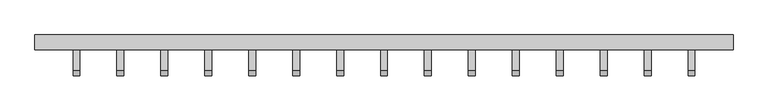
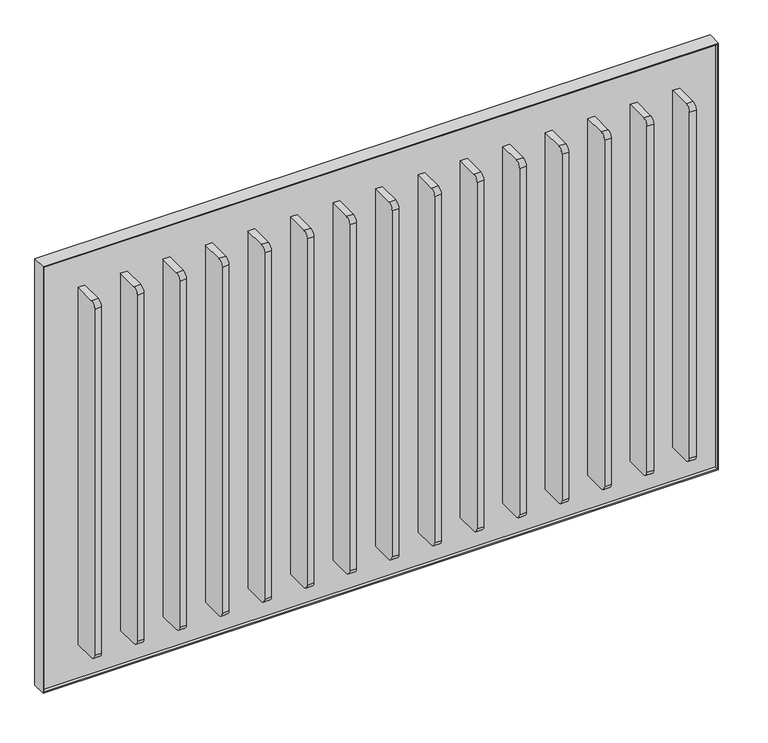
"""IFC4 building model written with IfcOpenShell, lengths in millimetres: proxy geometry, Frame_Cascade 14.3dm."""

import ifcopenshell
import ifcopenshell.guid

model = None  # the IFC model being written
_history = None  # IfcOwnerHistory: only IFC2X3 demands one
_inside = {}  # id of a spatial element -> (the spatial element, [elements in it])
_under = {}  # id of a project, library or spatial element -> (it, [spatial elements below it])
_declared = {}  # id of a project -> (the project, [libraries it declares])
_typed = {}  # id of a type object -> (the type object, [elements of that type])
_made_of = {}  # id of a material, layer set ... -> (it, [elements and type objects made of it])


def new_model(schema):
    """Start an empty IFC model of exactly this schema.

    Asked for "IFC4X3", IfcOpenShell would pick the latest addendum, in which some entities
    have other attributes; the version numbers below select the first issue.
    IFC2X3 requires an IfcOwnerHistory on every rooted entity: one is made here for all.
    """
    global model, _history
    if schema == "IFC4X3":
        model = ifcopenshell.file(schema_version=(4, 3, 0, 0))
    else:
        model = ifcopenshell.file(schema=schema)
    _inside.clear()
    _under.clear()
    _declared.clear()
    _typed.clear()
    _made_of.clear()
    _history = None
    if model.schema == "IFC2X3":
        org = make("IfcOrganization", Name="unknown")
        user = make(
            "IfcPersonAndOrganization",
            ThePerson=make("IfcPerson", FamilyName="unknown"),
            TheOrganization=org,
        )
        app = make(
            "IfcApplication",
            ApplicationDeveloper=org,
            Version="unknown",
            ApplicationFullName="unknown",
            ApplicationIdentifier="unknown",
        )
        _history = make(
            "IfcOwnerHistory",
            OwningUser=user,
            OwningApplication=app,
            ChangeAction="ADDED",
            CreationDate=0,
        )
    return model


def make(cls, **values):
    """One entity of the class cls with the attributes given. An attribute that is None is left unset."""
    return model.create_entity(
        cls, **{name: value for name, value in values.items() if value is not None}
    )


def rooted(cls, **values):
    """An entity with a GlobalId (a new one), such as an element, a storey or a relation."""
    return make(cls, GlobalId=ifcopenshell.guid.new(), OwnerHistory=_history, **values)


def si_unit(unit_type, name, prefix=None):
    """IfcSIUnit, for example si_unit("LENGTHUNIT", "METRE", prefix="MILLI")."""
    return make("IfcSIUnit", UnitType=unit_type, Prefix=prefix, Name=name)


def assignment(units):
    """IfcUnitAssignment: the units of a project."""
    return None if units is None else make("IfcUnitAssignment", Units=units)


def point(xyz):
    """IfcCartesianPoint."""
    return None if xyz is None else make("IfcCartesianPoint", Coordinates=xyz)


def direction(xyz):
    """IfcDirection."""
    return None if xyz is None else make("IfcDirection", DirectionRatios=xyz)


def frame(location, z_axis=None, x_axis=None):
    """IfcAxis2Placement3D, a coordinate frame: its origin and axes. An axis left out is left unset."""
    return make(
        "IfcAxis2Placement3D",
        Location=point(location),
        Axis=direction(z_axis),
        RefDirection=direction(x_axis),
    )


def frame_2d(location, x_axis=None):
    """IfcAxis2Placement2D, a coordinate frame in the plane: its origin and x axis."""
    return make(
        "IfcAxis2Placement2D", Location=point(location), RefDirection=direction(x_axis)
    )


def origin():
    """The frame at (0, 0, 0) with its axes left unset."""
    return frame((0.0, 0.0, 0.0))


def place(relative_to, where):
    """IfcLocalPlacement: puts the frame where relative to a parent placement (None: the world)."""
    return make(
        "IfcLocalPlacement", PlacementRelTo=relative_to, RelativePlacement=where
    )


def context(
    kind, dimensions, precision=None, world=None, true_north=None, identifier=None
):
    """IfcGeometricRepresentationContext, for example the 3D "Model" context."""
    return make(
        "IfcGeometricRepresentationContext",
        ContextIdentifier=identifier,
        ContextType=kind,
        CoordinateSpaceDimension=dimensions,
        Precision=precision,
        WorldCoordinateSystem=world,
        TrueNorth=true_north,
    )


def project(units=None, contexts=None):
    """IfcProject with its units and contexts."""
    return rooted(
        "IfcProject",
        Name="project",
        RepresentationContexts=contexts,
        UnitsInContext=assignment(units),
    )


def spatial(cls, under=None, at=None, **own):
    """A site, building, storey or space (cls), placed at a placement, below another one or the project."""
    s = rooted(cls, ObjectPlacement=at, **own)
    if under is not None:
        _under.setdefault(under.id(), (under, []))[1].append(s)
    return s


def polyline(points):
    """IfcPolyline through the points."""
    return make("IfcPolyline", Points=[point(p) for p in points])


def circle_curve(where, radius):
    """IfcCircle in the frame where."""
    return make("IfcCircle", Position=where, Radius=radius)


def trimmed(basis, trim1, trim2, sense, master):
    """IfcTrimmedCurve: the piece of a basis curve between two trims."""
    return make(
        "IfcTrimmedCurve",
        BasisCurve=basis,
        Trim1=trim1,
        Trim2=trim2,
        SenseAgreement=sense,
        MasterRepresentation=master,
    )


def segment(curve, same_sense, transition):
    """IfcCompositeCurveSegment."""
    return make(
        "IfcCompositeCurveSegment",
        Transition=transition,
        SameSense=same_sense,
        ParentCurve=curve,
    )


def composite_curve(segments, self_intersect=None):
    """IfcCompositeCurve: segments joined end to end."""
    return make("IfcCompositeCurve", Segments=segments, SelfIntersect=self_intersect)


def outline(outer, holes=None, kind="AREA"):
    """IfcArbitraryClosedProfileDef: a profile drawn as a closed curve; with holes, ...WithVoids."""
    if holes is None:
        return make("IfcArbitraryClosedProfileDef", ProfileType=kind, OuterCurve=outer)
    return make(
        "IfcArbitraryProfileDefWithVoids",
        ProfileType=kind,
        OuterCurve=outer,
        InnerCurves=holes,
    )


def extrude(swept, where, along, depth):
    """IfcExtrudedAreaSolid: the profile swept, set in the frame where, extruded along a direction by depth."""
    return make(
        "IfcExtrudedAreaSolid",
        SweptArea=swept,
        Position=where,
        ExtrudedDirection=direction(along),
        Depth=depth,
    )


def shape(context_of_items, identifier, shape_type, items):
    """IfcShapeRepresentation: the items that make up one representation, for example the "Body"."""
    return make(
        "IfcShapeRepresentation",
        ContextOfItems=context_of_items,
        RepresentationIdentifier=identifier,
        RepresentationType=shape_type,
        Items=items,
    )


def source(mapping_origin, context_of_items, identifier, shape_type, items):
    """IfcRepresentationMap: a shape defined once, which mapped items show again and again."""
    return make(
        "IfcRepresentationMap",
        MappingOrigin=mapping_origin,
        MappedRepresentation=shape(context_of_items, identifier, shape_type, items),
    )


def transform(
    local_origin,
    x_axis=None,
    y_axis=None,
    z_axis=None,
    scale=None,
    scale2=None,
    scale3=None,
    uniform=True,
):
    """IfcCartesianTransformationOperator3D, or its non-uniform kind. x_axis, y_axis, z_axis: its Axis1, 2, 3."""
    if uniform:
        return make(
            "IfcCartesianTransformationOperator3D",
            Axis1=direction(x_axis),
            Axis2=direction(y_axis),
            LocalOrigin=point(local_origin),
            Scale=scale,
            Axis3=direction(z_axis),
        )
    return make(
        "IfcCartesianTransformationOperator3DnonUniform",
        Axis1=direction(x_axis),
        Axis2=direction(y_axis),
        LocalOrigin=point(local_origin),
        Scale=scale,
        Axis3=direction(z_axis),
        Scale2=scale2,
        Scale3=scale3,
    )


def mapped(mapping_source, mapping_target):
    """IfcMappedItem: shows the shape of a source again, moved by a transform."""
    return make(
        "IfcMappedItem", MappingSource=mapping_source, MappingTarget=mapping_target
    )


def made_of(thing, what):
    """Note that an element or type object is made of a material, layer set ...; save() writes the relation."""
    if what is not None:
        _made_of.setdefault(what.id(), (what, []))[1].append(thing)
    return thing


def element(
    cls,
    number,
    at=None,
    inside=None,
    cuts=None,
    type_object=None,
    material=None,
    context=None,
    identifier="Body",
    shape_type=None,
    held_by="IfcProductDefinitionShape",
    body=None,
    shapes=None,
    **own,
):
    """One element of the class cls, such as IfcWall. Its Tag is "e" and its number.

    at: its placement. inside: the storey or other place that contains it. cuts: it is an
    opening in that element (IfcRelVoidsElement). A single representation is given by context,
    identifier, shape_type and body (its items); several are given by shapes. held_by: the class
    of the entity that holds the representations. save() writes the other relations.
    """
    e = rooted(cls, Tag="e%d" % number, ObjectPlacement=at, **own)
    if body is not None:
        shapes = [shape(context, identifier, shape_type, body)]
    if shapes is not None:
        e.Representation = make(held_by, Representations=shapes)
    if inside is not None:
        _inside.setdefault(inside.id(), (inside, []))[1].append(e)
    if cuts is not None:
        rooted(
            "IfcRelVoidsElement", RelatingBuildingElement=cuts, RelatedOpeningElement=e
        )
    if type_object is not None:
        _typed.setdefault(type_object.id(), (type_object, []))[1].append(e)
    return made_of(e, material)


def aggregate(whole, parts):
    """IfcRelAggregates: a whole, such as a stair, and the parts it consists of."""
    return rooted("IfcRelAggregates", RelatingObject=whole, RelatedObjects=parts)


def save(model, path):
    """Write the relations noted so far, then the file.

    IfcRelAggregates (storeys below a building ...), IfcRelContainedInSpatialStructure (elements
    in a storey), IfcRelDefinesByType, IfcRelAssociatesMaterial and IfcRelDeclares: one each for
    every whole, place, type object, material and project.
    """
    for whole, parts in _under.values():
        aggregate(whole, parts)
    for where, things in _inside.values():
        rooted(
            "IfcRelContainedInSpatialStructure",
            RelatedElements=things,
            RelatingStructure=where,
        )
    for kind, things in _typed.values():
        rooted("IfcRelDefinesByType", RelatedObjects=things, RelatingType=kind)
    for what, things in _made_of.values():
        rooted("IfcRelAssociatesMaterial", RelatedObjects=things, RelatingMaterial=what)
    for by, libraries in _declared.values():
        rooted("IfcRelDeclares", RelatingContext=by, RelatedDefinitions=libraries)
    model.write(path)


def generic_models_aef52470(model_context):
    return source(origin(), model_context, "Body", "SweptSolid", [
        extrude(outline(composite_curve([segment(trimmed(circle_curve(frame_2d((72.7568681, 668.1076084)), 10.0), [point((72.7568681, 658.1076084))], [point((62.7568681, 668.1076084))], False, "CARTESIAN"), True, "CONTINUOUS"), segment(polyline([(62.7568681, 668.1076084), (62.7568681, 1320.6076084)]), True, "CONTINUOUS"), segment(trimmed(circle_curve(frame_2d((72.7568681, 1320.6076084)), 10.0), [point((62.7568681, 1320.6076084))], [point((72.7568681, 1330.6076084))], False, "CARTESIAN"), True, "CONTINUOUS"), segment(polyline([(72.7568681, 1330.6076084), (114.2568681, 1330.6076084), (114.2568681, 658.1076084), (72.7568681, 658.1076084)]), True, "CONTINUOUS")], self_intersect=False)), frame((4297.3323426, 0.0, 0.0), z_axis=(1.0, 0.0, 0.0), x_axis=(0.0, 1.0, 0.0)), (0.0, 0.0, 1.0), 12.0),
        extrude(outline(composite_curve([segment(trimmed(circle_curve(frame_2d((72.7568681, 668.1076084)), 10.0), [point((72.7568681, 658.1076084))], [point((62.7568681, 668.1076084))], False, "CARTESIAN"), True, "CONTINUOUS"), segment(polyline([(62.7568681, 668.1076084), (62.7568681, 1320.6076084)]), True, "CONTINUOUS"), segment(trimmed(circle_curve(frame_2d((72.7568681, 1320.6076084)), 10.0), [point((62.7568681, 1320.6076084))], [point((72.7568681, 1330.6076084))], False, "CARTESIAN"), True, "CONTINUOUS"), segment(polyline([(72.7568681, 1330.6076084), (114.2568681, 1330.6076084), (114.2568681, 658.1076084), (72.7568681, 658.1076084)]), True, "CONTINUOUS")], self_intersect=False)), frame((4145.8323426, 0.0, 0.0), z_axis=(1.0, 0.0, 0.0), x_axis=(0.0, 1.0, 0.0)), (0.0, 0.0, 1.0), 12.0),
        extrude(outline(composite_curve([segment(trimmed(circle_curve(frame_2d((72.7568681, 668.1076084)), 10.0), [point((72.7568681, 658.1076084))], [point((62.7568681, 668.1076084))], False, "CARTESIAN"), True, "CONTINUOUS"), segment(polyline([(62.7568681, 668.1076084), (62.7568681, 1320.6076084)]), True, "CONTINUOUS"), segment(trimmed(circle_curve(frame_2d((72.7568681, 1320.6076084)), 10.0), [point((62.7568681, 1320.6076084))], [point((72.7568681, 1330.6076084))], False, "CARTESIAN"), True, "CONTINUOUS"), segment(polyline([(72.7568681, 1330.6076084), (114.2568681, 1330.6076084), (114.2568681, 658.1076084), (72.7568681, 658.1076084)]), True, "CONTINUOUS")], self_intersect=False)), frame((3918.5823426, 0.0, 0.0), z_axis=(1.0, 0.0, 0.0), x_axis=(0.0, 1.0, 0.0)), (0.0, 0.0, 1.0), 12.0),
        extrude(outline(composite_curve([segment(trimmed(circle_curve(frame_2d((72.7568681, 668.1076084)), 10.0), [point((72.7568681, 658.1076084))], [point((62.7568681, 668.1076084))], False, "CARTESIAN"), True, "CONTINUOUS"), segment(polyline([(62.7568681, 668.1076084), (62.7568681, 1320.6076084)]), True, "CONTINUOUS"), segment(trimmed(circle_curve(frame_2d((72.7568681, 1320.6076084)), 10.0), [point((62.7568681, 1320.6076084))], [point((72.7568681, 1330.6076084))], False, "CARTESIAN"), True, "CONTINUOUS"), segment(polyline([(72.7568681, 1330.6076084), (114.2568681, 1330.6076084), (114.2568681, 658.1076084), (72.7568681, 658.1076084)]), True, "CONTINUOUS")], self_intersect=False)), frame((4070.0823426, 0.0, 0.0), z_axis=(1.0, 0.0, 0.0), x_axis=(0.0, 1.0, 0.0)), (0.0, 0.0, 1.0), 12.0),
        extrude(outline(composite_curve([segment(trimmed(circle_curve(frame_2d((72.7568681, 668.1076084)), 10.0), [point((72.7568681, 658.1076084))], [point((62.7568681, 668.1076084))], False, "CARTESIAN"), True, "CONTINUOUS"), segment(polyline([(62.7568681, 668.1076084), (62.7568681, 1320.6076084)]), True, "CONTINUOUS"), segment(trimmed(circle_curve(frame_2d((72.7568681, 1320.6076084)), 10.0), [point((62.7568681, 1320.6076084))], [point((72.7568681, 1330.6076084))], False, "CARTESIAN"), True, "CONTINUOUS"), segment(polyline([(72.7568681, 1330.6076084), (114.2568681, 1330.6076084), (114.2568681, 658.1076084), (72.7568681, 658.1076084)]), True, "CONTINUOUS")], self_intersect=False)), frame((3842.8323426, 0.0, 0.0), z_axis=(1.0, 0.0, 0.0), x_axis=(0.0, 1.0, 0.0)), (0.0, 0.0, 1.0), 12.0),
        extrude(outline(composite_curve([segment(trimmed(circle_curve(frame_2d((72.7568681, 668.1076084)), 10.0), [point((72.7568681, 658.1076084))], [point((62.7568681, 668.1076084))], False, "CARTESIAN"), True, "CONTINUOUS"), segment(polyline([(62.7568681, 668.1076084), (62.7568681, 1320.6076084)]), True, "CONTINUOUS"), segment(trimmed(circle_curve(frame_2d((72.7568681, 1320.6076084)), 10.0), [point((62.7568681, 1320.6076084))], [point((72.7568681, 1330.6076084))], False, "CARTESIAN"), True, "CONTINUOUS"), segment(polyline([(72.7568681, 1330.6076084), (114.2568681, 1330.6076084), (114.2568681, 658.1076084), (72.7568681, 658.1076084)]), True, "CONTINUOUS")], self_intersect=False)), frame((3994.3323426, 0.0, 0.0), z_axis=(1.0, 0.0, 0.0), x_axis=(0.0, 1.0, 0.0)), (0.0, 0.0, 1.0), 12.0),
        extrude(outline(composite_curve([segment(trimmed(circle_curve(frame_2d((72.7568681, 668.1076084)), 10.0), [point((72.7568681, 658.1076084))], [point((62.7568681, 668.1076084))], False, "CARTESIAN"), True, "CONTINUOUS"), segment(polyline([(62.7568681, 668.1076084), (62.7568681, 1320.6076084)]), True, "CONTINUOUS"), segment(trimmed(circle_curve(frame_2d((72.7568681, 1320.6076084)), 10.0), [point((62.7568681, 1320.6076084))], [point((72.7568681, 1330.6076084))], False, "CARTESIAN"), True, "CONTINUOUS"), segment(polyline([(72.7568681, 1330.6076084), (114.2568681, 1330.6076084), (114.2568681, 658.1076084), (72.7568681, 658.1076084)]), True, "CONTINUOUS")], self_intersect=False)), frame((4221.5823426, 0.0, 0.0), z_axis=(1.0, 0.0, 0.0), x_axis=(0.0, 1.0, 0.0)), (0.0, 0.0, 1.0), 12.0),
        extrude(outline(composite_curve([segment(trimmed(circle_curve(frame_2d((72.7568681, 668.1076084)), 10.0), [point((72.7568681, 658.1076084))], [point((62.7568681, 668.1076084))], False, "CARTESIAN"), True, "CONTINUOUS"), segment(polyline([(62.7568681, 668.1076084), (62.7568681, 1320.6076084)]), True, "CONTINUOUS"), segment(trimmed(circle_curve(frame_2d((72.7568681, 1320.6076084)), 10.0), [point((62.7568681, 1320.6076084))], [point((72.7568681, 1330.6076084))], False, "CARTESIAN"), True, "CONTINUOUS"), segment(polyline([(72.7568681, 1330.6076084), (114.2568681, 1330.6076084), (114.2568681, 658.1076084), (72.7568681, 658.1076084)]), True, "CONTINUOUS")], self_intersect=False)), frame((3615.5823426, 0.0, 0.0), z_axis=(1.0, 0.0, 0.0), x_axis=(0.0, 1.0, 0.0)), (0.0, 0.0, 1.0), 12.0),
        extrude(outline(composite_curve([segment(trimmed(circle_curve(frame_2d((72.7568681, 668.1076084)), 10.0), [point((72.7568681, 658.1076084))], [point((62.7568681, 668.1076084))], False, "CARTESIAN"), True, "CONTINUOUS"), segment(polyline([(62.7568681, 668.1076084), (62.7568681, 1320.6076084)]), True, "CONTINUOUS"), segment(trimmed(circle_curve(frame_2d((72.7568681, 1320.6076084)), 10.0), [point((62.7568681, 1320.6076084))], [point((72.7568681, 1330.6076084))], False, "CARTESIAN"), True, "CONTINUOUS"), segment(polyline([(72.7568681, 1330.6076084), (114.2568681, 1330.6076084), (114.2568681, 658.1076084), (72.7568681, 658.1076084)]), True, "CONTINUOUS")], self_intersect=False)), frame((3767.0823426, 0.0, 0.0), z_axis=(1.0, 0.0, 0.0), x_axis=(0.0, 1.0, 0.0)), (0.0, 0.0, 1.0), 12.0),
        extrude(outline(composite_curve([segment(trimmed(circle_curve(frame_2d((72.7568681, 668.1076084)), 10.0), [point((72.7568681, 658.1076084))], [point((62.7568681, 668.1076084))], False, "CARTESIAN"), True, "CONTINUOUS"), segment(polyline([(62.7568681, 668.1076084), (62.7568681, 1320.6076084)]), True, "CONTINUOUS"), segment(trimmed(circle_curve(frame_2d((72.7568681, 1320.6076084)), 10.0), [point((62.7568681, 1320.6076084))], [point((72.7568681, 1330.6076084))], False, "CARTESIAN"), True, "CONTINUOUS"), segment(polyline([(72.7568681, 1330.6076084), (114.2568681, 1330.6076084), (114.2568681, 658.1076084), (72.7568681, 658.1076084)]), True, "CONTINUOUS")], self_intersect=False)), frame((3691.3323426, 0.0, 0.0), z_axis=(1.0, 0.0, 0.0), x_axis=(0.0, 1.0, 0.0)), (0.0, 0.0, 1.0), 12.0),
        extrude(outline(composite_curve([segment(trimmed(circle_curve(frame_2d((72.7568681, 668.1076084)), 10.0), [point((72.7568681, 658.1076084))], [point((62.7568681, 668.1076084))], False, "CARTESIAN"), True, "CONTINUOUS"), segment(polyline([(62.7568681, 668.1076084), (62.7568681, 1320.6076084)]), True, "CONTINUOUS"), segment(trimmed(circle_curve(frame_2d((72.7568681, 1320.6076084)), 10.0), [point((62.7568681, 1320.6076084))], [point((72.7568681, 1330.6076084))], False, "CARTESIAN"), True, "CONTINUOUS"), segment(polyline([(72.7568681, 1330.6076084), (114.2568681, 1330.6076084), (114.2568681, 658.1076084), (72.7568681, 658.1076084)]), True, "CONTINUOUS")], self_intersect=False)), frame((3236.8323426, 0.0, 0.0), z_axis=(1.0, 0.0, 0.0), x_axis=(0.0, 1.0, 0.0)), (0.0, 0.0, 1.0), 12.0),
        extrude(outline(composite_curve([segment(trimmed(circle_curve(frame_2d((72.7568681, 668.1076084)), 10.0), [point((72.7568681, 658.1076084))], [point((62.7568681, 668.1076084))], False, "CARTESIAN"), True, "CONTINUOUS"), segment(polyline([(62.7568681, 668.1076084), (62.7568681, 1320.6076084)]), True, "CONTINUOUS"), segment(trimmed(circle_curve(frame_2d((72.7568681, 1320.6076084)), 10.0), [point((62.7568681, 1320.6076084))], [point((72.7568681, 1330.6076084))], False, "CARTESIAN"), True, "CONTINUOUS"), segment(polyline([(72.7568681, 1330.6076084), (114.2568681, 1330.6076084), (114.2568681, 658.1076084), (72.7568681, 658.1076084)]), True, "CONTINUOUS")], self_intersect=False)), frame((3464.0823426, 0.0, 0.0), z_axis=(1.0, 0.0, 0.0), x_axis=(0.0, 1.0, 0.0)), (0.0, 0.0, 1.0), 12.0),
        extrude(outline(composite_curve([segment(trimmed(circle_curve(frame_2d((72.7568681, 668.1076084)), 10.0), [point((72.7568681, 658.1076084))], [point((62.7568681, 668.1076084))], False, "CARTESIAN"), True, "CONTINUOUS"), segment(polyline([(62.7568681, 668.1076084), (62.7568681, 1320.6076084)]), True, "CONTINUOUS"), segment(trimmed(circle_curve(frame_2d((72.7568681, 1320.6076084)), 10.0), [point((62.7568681, 1320.6076084))], [point((72.7568681, 1330.6076084))], False, "CARTESIAN"), True, "CONTINUOUS"), segment(polyline([(72.7568681, 1330.6076084), (114.2568681, 1330.6076084), (114.2568681, 658.1076084), (72.7568681, 658.1076084)]), True, "CONTINUOUS")], self_intersect=False)), frame((3539.8323426, 0.0, 0.0), z_axis=(1.0, 0.0, 0.0), x_axis=(0.0, 1.0, 0.0)), (0.0, 0.0, 1.0), 12.0),
        extrude(outline(composite_curve([segment(trimmed(circle_curve(frame_2d((72.7568681, 668.1076084)), 10.0), [point((72.7568681, 658.1076084))], [point((62.7568681, 668.1076084))], False, "CARTESIAN"), True, "CONTINUOUS"), segment(polyline([(62.7568681, 668.1076084), (62.7568681, 1320.6076084)]), True, "CONTINUOUS"), segment(trimmed(circle_curve(frame_2d((72.7568681, 1320.6076084)), 10.0), [point((62.7568681, 1320.6076084))], [point((72.7568681, 1330.6076084))], False, "CARTESIAN"), True, "CONTINUOUS"), segment(polyline([(72.7568681, 1330.6076084), (114.2568681, 1330.6076084), (114.2568681, 658.1076084), (72.7568681, 658.1076084)]), True, "CONTINUOUS")], self_intersect=False)), frame((3388.3323426, 0.0, 0.0), z_axis=(1.0, 0.0, 0.0), x_axis=(0.0, 1.0, 0.0)), (0.0, 0.0, 1.0), 12.0),
        extrude(outline(composite_curve([segment(trimmed(circle_curve(frame_2d((72.7568681, 668.1076084)), 10.0), [point((72.7568681, 658.1076084))], [point((62.7568681, 668.1076084))], False, "CARTESIAN"), True, "CONTINUOUS"), segment(polyline([(62.7568681, 668.1076084), (62.7568681, 1320.6076084)]), True, "CONTINUOUS"), segment(trimmed(circle_curve(frame_2d((72.7568681, 1320.6076084)), 10.0), [point((62.7568681, 1320.6076084))], [point((72.7568681, 1330.6076084))], False, "CARTESIAN"), True, "CONTINUOUS"), segment(polyline([(72.7568681, 1330.6076084), (114.2568681, 1330.6076084), (114.2568681, 658.1076084), (72.7568681, 658.1076084)]), True, "CONTINUOUS")], self_intersect=False)), frame((3312.5823426, 0.0, 0.0), z_axis=(1.0, 0.0, 0.0), x_axis=(0.0, 1.0, 0.0)), (0.0, 0.0, 1.0), 12.0),
        extrude(outline(polyline([(4373.0823426, 114.2568681), (3173.0823426, 114.2568681), (3173.0823426, 126.2568681), (4373.0823426, 126.2568681), (4373.0823426, 114.2568681)])), frame((0.0, 0.0, 594.3576084), z_axis=(0.0, 0.0, 1.0), x_axis=(1.0, 0.0, 0.0)), (0.0, 0.0, 1.0), 800.0),
        extrude(outline(polyline([(592.3576084, 4375.0823426), (1396.3576084, 4375.0823426), (1396.3576084, 3171.0823426), (592.3576084, 3171.0823426), (592.3576084, 4375.0823426)]), holes=[polyline([(594.3576084, 4373.0823426), (594.3576084, 3173.0823426), (1394.3576084, 3173.0823426), (1394.3576084, 4373.0823426), (594.3576084, 4373.0823426)])]), frame((0.0, 107.9068681, 0.0), z_axis=(0.0, 1.0, 0.0), x_axis=(0.0, 0.0, 1.0)), (0.0, 0.0, 1.0), 25.4),
    ])


if __name__ == "__main__":
    model = new_model("IFC4")
    model_context = context("Model", 3, world=origin())
    ifc_project = project(units=[si_unit("LENGTHUNIT", "METRE", prefix="MILLI")], contexts=[model_context])
    site = spatial("IfcSite", under=ifc_project)
    building = spatial("IfcBuilding", under=site)
    placement = place(None, origin())
    generic_models_shape = generic_models_aef52470(model_context)
    element("IfcBuildingElementProxy", 1, Name="Frame_Cascade 14.3dm", ObjectType="Frame_Cascade 14.3dm", at=placement, inside=building, context=model_context, shape_type="MappedRepresentation", body=[
        mapped(generic_models_shape, transform((0.0, 0.0, 0.0), x_axis=(1.0, 0.0, 0.0), y_axis=(0.0, 1.0, 0.0), z_axis=(0.0, 0.0, 1.0))),
    ])
    save(model, "model.ifc")
